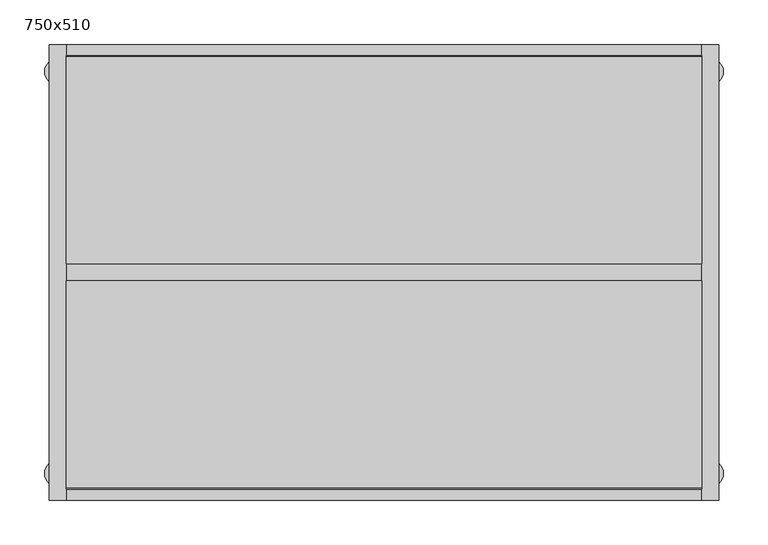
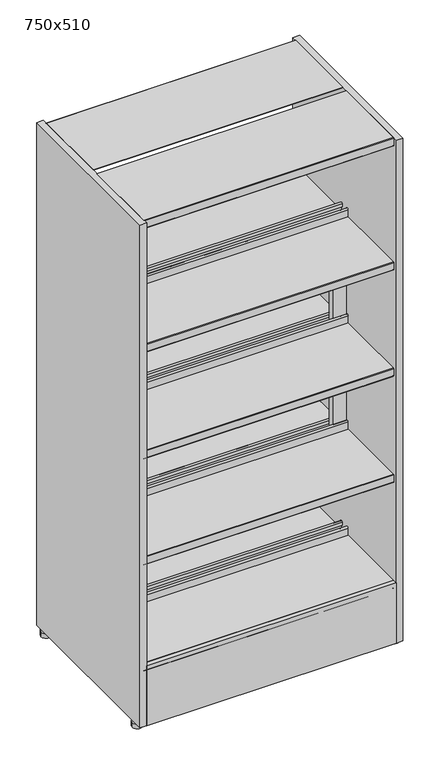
"""IFC4 building model written with IfcOpenShell, lengths in millimetres: furniture geometry, BK Library - Smaaland DS - 1530 : 750x510."""

from ifc_helpers import new_model, si_unit, point, frame, frame_2d, origin, origin_with_axes, place, context, project, spatial, polyline, circle_curve, trimmed, segment, composite_curve, outline, extrude, source, transform, mapped, element, save


def furniture_750x510_6453d18b(model_context):
    return source(origin(), model_context, "Body", "SweptSolid", [
        extrude(outline(polyline([(356.0, 255.0), (356.0, 242.7476624), (-356.0, 242.7476624), (-356.0, 255.0), (356.0, 255.0)])), frame((0.0, 0.0, 13.6999998), z_axis=(0.0, 0.0, 1.0), x_axis=(1.0, 0.0, 0.0)), (0.0, 0.0, 1.0), 181.4999514),
        extrude(outline(polyline([(356.0, -242.7476624), (356.0, -255.0), (-356.0, -255.0), (-356.0, -242.7476624), (356.0, -242.7476624)])), frame((0.0, 0.0, 13.6999998), z_axis=(0.0, 0.0, 1.0), x_axis=(1.0, 0.0, 0.0)), (0.0, 0.0, 1.0), 181.4999514),
        extrude(outline(polyline([(1106.1999512, -356.0), (391.1999512, -356.0), (391.1999512, 356.0), (1106.1999512, 356.0), (1106.1999512, -356.0)]), holes=[polyline([(1066.1999514, -317.5), (1066.1999514, 317.5), (431.1999514, 317.5), (431.1999514, -317.5), (1066.1999514, -317.5)])]), frame((0.0, -9.5, 0.0), z_axis=(0.0, 1.0, 0.0), x_axis=(0.0, 0.0, 1.0)), (0.0, 0.0, 1.0), 19.0),
        extrude(outline(composite_curve([segment(polyline([(9.5, 1530.0), (241.25, 1530.0)]), True, "CONTINUOUS"), segment(trimmed(circle_curve(frame_2d((241.25, 1528.5)), 1.5), [point((241.25, 1530.0))], [point((242.75, 1528.5))], False, "CARTESIAN"), True, "CONTINUOUS"), segment(polyline([(242.75, 1528.5), (242.75, 1506.5)]), True, "CONTINUOUS"), segment(trimmed(circle_curve(frame_2d((241.25, 1506.5)), 1.5), [point((242.75, 1506.5))], [point((241.25, 1505.0))], False, "CARTESIAN"), True, "CONTINUOUS"), segment(polyline([(241.25, 1505.0), (229.25, 1505.0), (229.25, 1506.5), (241.25, 1506.5), (241.25, 1528.0), (9.5, 1528.0), (9.5, 1530.0)]), True, "CONTINUOUS")], self_intersect=False)), frame((-356.0, 0.0, 0.0), z_axis=(1.0, 0.0, 0.0), x_axis=(0.0, 1.0, 0.0)), (0.0, 0.0, 1.0), 712.0),
        extrude(outline(composite_curve([segment(polyline([(17.75, 1155.1999512), (241.25, 1155.1999512)]), True, "CONTINUOUS"), segment(trimmed(circle_curve(frame_2d((241.25, 1153.6999512)), 1.5), [point((241.25, 1155.1999512))], [point((242.75, 1153.6999512))], False, "CARTESIAN"), True, "CONTINUOUS"), segment(polyline([(242.75, 1153.6999512), (242.75, 1132.1999512)]), True, "CONTINUOUS"), segment(trimmed(circle_curve(frame_2d((241.25, 1132.1999512)), 1.5), [point((242.75, 1132.1999512))], [point((241.25, 1130.6999512))], False, "CARTESIAN"), True, "CONTINUOUS"), segment(polyline([(241.25, 1130.6999512), (229.25, 1130.6999512), (229.25, 1132.1999512), (241.25, 1132.1999512), (241.25, 1153.6999512), (17.7048221, 1153.6999512)]), True, "CONTINUOUS"), segment(trimmed(circle_curve(frame_2d((17.7048221, 1155.1547733)), 1.4548221), [point((17.7048221, 1153.6999512))], [point((16.25, 1155.1547733))], False, "CARTESIAN"), True, "CONTINUOUS"), segment(polyline([(16.25, 1155.1547733), (16.25, 1176.7020126)]), True, "CONTINUOUS"), segment(trimmed(circle_curve(frame_2d((14.25, 1176.7020126)), 2.0), [point((16.25, 1176.7020126))], [point((12.25, 1176.7020126))], True, "CARTESIAN"), True, "CONTINUOUS"), segment(polyline([(12.25, 1176.7020126), (12.25, 1168.1999512), (10.75, 1168.1999512), (10.75, 1176.7196336)]), True, "CONTINUOUS"), segment(trimmed(circle_curve(frame_2d((14.25, 1176.7196336)), 3.5), [point((10.75, 1176.7196336))], [point((17.75, 1176.7196336))], False, "CARTESIAN"), True, "CONTINUOUS"), segment(polyline([(17.75, 1176.7196336), (17.75, 1155.1999512)]), True, "CONTINUOUS")], self_intersect=False)), frame((-356.0, 0.0, 0.0), z_axis=(1.0, 0.0, 0.0), x_axis=(0.0, 1.0, 0.0)), (0.0, 0.0, 1.0), 712.0),
        extrude(outline(composite_curve([segment(polyline([(17.75, 835.1999512), (241.25, 835.1999512)]), True, "CONTINUOUS"), segment(trimmed(circle_curve(frame_2d((241.25, 833.6999512)), 1.5), [point((241.25, 835.1999512))], [point((242.75, 833.6999512))], False, "CARTESIAN"), True, "CONTINUOUS"), segment(polyline([(242.75, 833.6999512), (242.75, 812.1999512)]), True, "CONTINUOUS"), segment(trimmed(circle_curve(frame_2d((241.25, 812.1999512)), 1.5), [point((242.75, 812.1999512))], [point((241.25, 810.6999512))], False, "CARTESIAN"), True, "CONTINUOUS"), segment(polyline([(241.25, 810.6999512), (229.25, 810.6999512), (229.25, 812.1999512), (241.25, 812.1999512), (241.25, 833.6999512), (17.7048221, 833.6999512)]), True, "CONTINUOUS"), segment(trimmed(circle_curve(frame_2d((17.7048221, 835.1547733)), 1.4548221), [point((17.7048221, 833.6999512))], [point((16.25, 835.1547733))], False, "CARTESIAN"), True, "CONTINUOUS"), segment(polyline([(16.25, 835.1547733), (16.25, 856.7020126)]), True, "CONTINUOUS"), segment(trimmed(circle_curve(frame_2d((14.25, 856.7020126)), 2.0), [point((16.25, 856.7020126))], [point((12.25, 856.7020126))], True, "CARTESIAN"), True, "CONTINUOUS"), segment(polyline([(12.25, 856.7020126), (12.25, 848.1999512), (10.75, 848.1999512), (10.75, 856.7196336)]), True, "CONTINUOUS"), segment(trimmed(circle_curve(frame_2d((14.25, 856.7196336)), 3.5), [point((10.75, 856.7196336))], [point((17.75, 856.7196336))], False, "CARTESIAN"), True, "CONTINUOUS"), segment(polyline([(17.75, 856.7196336), (17.75, 835.1999512)]), True, "CONTINUOUS")], self_intersect=False)), frame((-356.0, 0.0, 0.0), z_axis=(1.0, 0.0, 0.0), x_axis=(0.0, 1.0, 0.0)), (0.0, 0.0, 1.0), 712.0),
        extrude(outline(composite_curve([segment(polyline([(17.75, 515.1999512), (241.25, 515.1999512)]), True, "CONTINUOUS"), segment(trimmed(circle_curve(frame_2d((241.25, 513.6999512)), 1.5), [point((241.25, 515.1999512))], [point((242.75, 513.6999512))], False, "CARTESIAN"), True, "CONTINUOUS"), segment(polyline([(242.75, 513.6999512), (242.75, 492.1999512)]), True, "CONTINUOUS"), segment(trimmed(circle_curve(frame_2d((241.25, 492.1999512)), 1.5), [point((242.75, 492.1999512))], [point((241.25, 490.6999512))], False, "CARTESIAN"), True, "CONTINUOUS"), segment(polyline([(241.25, 490.6999512), (229.25, 490.6999512), (229.25, 492.1999512), (241.25, 492.1999512), (241.25, 513.6999512), (17.7048221, 513.6999512)]), True, "CONTINUOUS"), segment(trimmed(circle_curve(frame_2d((17.7048221, 515.1547733)), 1.4548221), [point((17.7048221, 513.6999512))], [point((16.25, 515.1547733))], False, "CARTESIAN"), True, "CONTINUOUS"), segment(polyline([(16.25, 515.1547733), (16.25, 536.7020126)]), True, "CONTINUOUS"), segment(trimmed(circle_curve(frame_2d((14.25, 536.7020126)), 2.0), [point((16.25, 536.7020126))], [point((12.25, 536.7020126))], True, "CARTESIAN"), True, "CONTINUOUS"), segment(polyline([(12.25, 536.7020126), (12.25, 528.1999512), (10.75, 528.1999512), (10.75, 536.7196336)]), True, "CONTINUOUS"), segment(trimmed(circle_curve(frame_2d((14.25, 536.7196336)), 3.5), [point((10.75, 536.7196336))], [point((17.75, 536.7196336))], False, "CARTESIAN"), True, "CONTINUOUS"), segment(polyline([(17.75, 536.7196336), (17.75, 515.1999512)]), True, "CONTINUOUS")], self_intersect=False)), frame((-356.0, 0.0, 0.0), z_axis=(1.0, 0.0, 0.0), x_axis=(0.0, 1.0, 0.0)), (0.0, 0.0, 1.0), 712.0),
        extrude(outline(composite_curve([segment(polyline([(17.75, 195.1999512), (241.25, 195.1999512)]), True, "CONTINUOUS"), segment(trimmed(circle_curve(frame_2d((241.25, 193.6999512)), 1.5), [point((241.25, 195.1999512))], [point((242.75, 193.6999512))], False, "CARTESIAN"), True, "CONTINUOUS"), segment(polyline([(242.75, 193.6999512), (242.75, 172.1999512)]), True, "CONTINUOUS"), segment(trimmed(circle_curve(frame_2d((241.25, 172.1999512)), 1.5), [point((242.75, 172.1999512))], [point((241.25, 170.6999512))], False, "CARTESIAN"), True, "CONTINUOUS"), segment(polyline([(241.25, 170.6999512), (229.25, 170.6999512), (229.25, 172.1999512), (241.25, 172.1999512), (241.25, 193.6999512), (17.7048221, 193.6999512)]), True, "CONTINUOUS"), segment(trimmed(circle_curve(frame_2d((17.7048221, 195.1547733)), 1.4548221), [point((17.7048221, 193.6999512))], [point((16.25, 195.1547733))], False, "CARTESIAN"), True, "CONTINUOUS"), segment(polyline([(16.25, 195.1547733), (16.25, 216.7020126)]), True, "CONTINUOUS"), segment(trimmed(circle_curve(frame_2d((14.25, 216.7020126)), 2.0), [point((16.25, 216.7020126))], [point((12.25, 216.7020126))], True, "CARTESIAN"), True, "CONTINUOUS"), segment(polyline([(12.25, 216.7020126), (12.25, 208.1999512), (10.75, 208.1999512), (10.75, 216.7196336)]), True, "CONTINUOUS"), segment(trimmed(circle_curve(frame_2d((14.25, 216.7196336)), 3.5), [point((10.75, 216.7196336))], [point((17.75, 216.7196336))], False, "CARTESIAN"), True, "CONTINUOUS"), segment(polyline([(17.75, 216.7196336), (17.75, 195.1999512)]), True, "CONTINUOUS")], self_intersect=False)), frame((-356.0, 0.0, 0.0), z_axis=(1.0, 0.0, 0.0), x_axis=(0.0, 1.0, 0.0)), (0.0, 0.0, 1.0), 712.0),
        extrude(outline(composite_curve([segment(polyline([(-9.5, 1530.0), (-9.5, 1528.0), (-241.25, 1528.0), (-241.25, 1506.5), (-229.25, 1506.5), (-229.25, 1505.0), (-241.25, 1505.0)]), True, "CONTINUOUS"), segment(trimmed(circle_curve(frame_2d((-241.25, 1506.5)), 1.5), [point((-241.25, 1505.0))], [point((-242.75, 1506.5))], False, "CARTESIAN"), True, "CONTINUOUS"), segment(polyline([(-242.75, 1506.5), (-242.75, 1528.5)]), True, "CONTINUOUS"), segment(trimmed(circle_curve(frame_2d((-241.25, 1528.5)), 1.5), [point((-242.75, 1528.5))], [point((-241.25, 1530.0))], False, "CARTESIAN"), True, "CONTINUOUS"), segment(polyline([(-241.25, 1530.0), (-9.5, 1530.0)]), True, "CONTINUOUS")], self_intersect=False)), frame((-356.0, 0.0, 0.0), z_axis=(1.0, 0.0, 0.0), x_axis=(0.0, 1.0, 0.0)), (0.0, 0.0, 1.0), 712.0),
        extrude(outline(composite_curve([segment(polyline([(-17.75, 1155.1999512), (-17.75, 1176.7196336)]), True, "CONTINUOUS"), segment(trimmed(circle_curve(frame_2d((-14.25, 1176.7196336)), 3.5), [point((-17.75, 1176.7196336))], [point((-10.75, 1176.7196336))], False, "CARTESIAN"), True, "CONTINUOUS"), segment(polyline([(-10.75, 1176.7196336), (-10.75, 1168.1999512), (-12.25, 1168.1999512), (-12.25, 1176.7020126)]), True, "CONTINUOUS"), segment(trimmed(circle_curve(frame_2d((-14.25, 1176.7020126)), 2.0), [point((-12.25, 1176.7020126))], [point((-16.25, 1176.7020126))], True, "CARTESIAN"), True, "CONTINUOUS"), segment(polyline([(-16.25, 1176.7020126), (-16.25, 1155.1547733)]), True, "CONTINUOUS"), segment(trimmed(circle_curve(frame_2d((-17.7048221, 1155.1547733)), 1.4548221), [point((-16.25, 1155.1547733))], [point((-17.7048221, 1153.6999512))], False, "CARTESIAN"), True, "CONTINUOUS"), segment(polyline([(-17.7048221, 1153.6999512), (-241.25, 1153.6999512), (-241.25, 1132.1999512), (-229.25, 1132.1999512), (-229.25, 1130.6999512), (-241.25, 1130.6999512)]), True, "CONTINUOUS"), segment(trimmed(circle_curve(frame_2d((-241.25, 1132.1999512)), 1.5), [point((-241.25, 1130.6999512))], [point((-242.75, 1132.1999512))], False, "CARTESIAN"), True, "CONTINUOUS"), segment(polyline([(-242.75, 1132.1999512), (-242.75, 1153.6999512)]), True, "CONTINUOUS"), segment(trimmed(circle_curve(frame_2d((-241.25, 1153.6999512)), 1.5), [point((-242.75, 1153.6999512))], [point((-241.25, 1155.1999512))], False, "CARTESIAN"), True, "CONTINUOUS"), segment(polyline([(-241.25, 1155.1999512), (-17.75, 1155.1999512)]), True, "CONTINUOUS")], self_intersect=False)), frame((-356.0, 0.0, 0.0), z_axis=(1.0, 0.0, 0.0), x_axis=(0.0, 1.0, 0.0)), (0.0, 0.0, 1.0), 712.0),
        extrude(outline(composite_curve([segment(polyline([(-17.75, 835.1999512), (-17.75, 856.7196336)]), True, "CONTINUOUS"), segment(trimmed(circle_curve(frame_2d((-14.25, 856.7196336)), 3.5), [point((-17.75, 856.7196336))], [point((-10.75, 856.7196336))], False, "CARTESIAN"), True, "CONTINUOUS"), segment(polyline([(-10.75, 856.7196336), (-10.75, 848.1999512), (-12.25, 848.1999512), (-12.25, 856.7020126)]), True, "CONTINUOUS"), segment(trimmed(circle_curve(frame_2d((-14.25, 856.7020126)), 2.0), [point((-12.25, 856.7020126))], [point((-16.25, 856.7020126))], True, "CARTESIAN"), True, "CONTINUOUS"), segment(polyline([(-16.25, 856.7020126), (-16.25, 835.1547733)]), True, "CONTINUOUS"), segment(trimmed(circle_curve(frame_2d((-17.7048221, 835.1547733)), 1.4548221), [point((-16.25, 835.1547733))], [point((-17.7048221, 833.6999512))], False, "CARTESIAN"), True, "CONTINUOUS"), segment(polyline([(-17.7048221, 833.6999512), (-241.25, 833.6999512), (-241.25, 812.1999512), (-229.25, 812.1999512), (-229.25, 810.6999512), (-241.25, 810.6999512)]), True, "CONTINUOUS"), segment(trimmed(circle_curve(frame_2d((-241.25, 812.1999512)), 1.5), [point((-241.25, 810.6999512))], [point((-242.75, 812.1999512))], False, "CARTESIAN"), True, "CONTINUOUS"), segment(polyline([(-242.75, 812.1999512), (-242.75, 833.6999512)]), True, "CONTINUOUS"), segment(trimmed(circle_curve(frame_2d((-241.25, 833.6999512)), 1.5), [point((-242.75, 833.6999512))], [point((-241.25, 835.1999512))], False, "CARTESIAN"), True, "CONTINUOUS"), segment(polyline([(-241.25, 835.1999512), (-17.75, 835.1999512)]), True, "CONTINUOUS")], self_intersect=False)), frame((-356.0, 0.0, 0.0), z_axis=(1.0, 0.0, 0.0), x_axis=(0.0, 1.0, 0.0)), (0.0, 0.0, 1.0), 712.0),
        extrude(outline(composite_curve([segment(polyline([(-17.75, 515.1999512), (-17.75, 536.7196336)]), True, "CONTINUOUS"), segment(trimmed(circle_curve(frame_2d((-14.25, 536.7196336)), 3.5), [point((-17.75, 536.7196336))], [point((-10.75, 536.7196336))], False, "CARTESIAN"), True, "CONTINUOUS"), segment(polyline([(-10.75, 536.7196336), (-10.75, 528.1999512), (-12.25, 528.1999512), (-12.25, 536.7020126)]), True, "CONTINUOUS"), segment(trimmed(circle_curve(frame_2d((-14.25, 536.7020126)), 2.0), [point((-12.25, 536.7020126))], [point((-16.25, 536.7020126))], True, "CARTESIAN"), True, "CONTINUOUS"), segment(polyline([(-16.25, 536.7020126), (-16.25, 515.1547733)]), True, "CONTINUOUS"), segment(trimmed(circle_curve(frame_2d((-17.7048221, 515.1547733)), 1.4548221), [point((-16.25, 515.1547733))], [point((-17.7048221, 513.6999512))], False, "CARTESIAN"), True, "CONTINUOUS"), segment(polyline([(-17.7048221, 513.6999512), (-241.25, 513.6999512), (-241.25, 492.1999512), (-229.25, 492.1999512), (-229.25, 490.6999512), (-241.25, 490.6999512)]), True, "CONTINUOUS"), segment(trimmed(circle_curve(frame_2d((-241.25, 492.1999512)), 1.5), [point((-241.25, 490.6999512))], [point((-242.75, 492.1999512))], False, "CARTESIAN"), True, "CONTINUOUS"), segment(polyline([(-242.75, 492.1999512), (-242.75, 513.6999512)]), True, "CONTINUOUS"), segment(trimmed(circle_curve(frame_2d((-241.25, 513.6999512)), 1.5), [point((-242.75, 513.6999512))], [point((-241.25, 515.1999512))], False, "CARTESIAN"), True, "CONTINUOUS"), segment(polyline([(-241.25, 515.1999512), (-17.75, 515.1999512)]), True, "CONTINUOUS")], self_intersect=False)), frame((-356.0, 0.0, 0.0), z_axis=(1.0, 0.0, 0.0), x_axis=(0.0, 1.0, 0.0)), (0.0, 0.0, 1.0), 712.0),
        extrude(outline(composite_curve([segment(polyline([(-17.75, 195.1999512), (-17.75, 216.7196336)]), True, "CONTINUOUS"), segment(trimmed(circle_curve(frame_2d((-14.25, 216.7196336)), 3.5), [point((-17.75, 216.7196336))], [point((-10.75, 216.7196336))], False, "CARTESIAN"), True, "CONTINUOUS"), segment(polyline([(-10.75, 216.7196336), (-10.75, 208.1999512), (-12.25, 208.1999512), (-12.25, 216.7020126)]), True, "CONTINUOUS"), segment(trimmed(circle_curve(frame_2d((-14.25, 216.7020126)), 2.0), [point((-12.25, 216.7020126))], [point((-16.25, 216.7020126))], True, "CARTESIAN"), True, "CONTINUOUS"), segment(polyline([(-16.25, 216.7020126), (-16.25, 195.1547733)]), True, "CONTINUOUS"), segment(trimmed(circle_curve(frame_2d((-17.7048221, 195.1547733)), 1.4548221), [point((-16.25, 195.1547733))], [point((-17.7048221, 193.6999512))], False, "CARTESIAN"), True, "CONTINUOUS"), segment(polyline([(-17.7048221, 193.6999512), (-241.25, 193.6999512), (-241.25, 172.1999512), (-229.25, 172.1999512), (-229.25, 170.6999512), (-241.25, 170.6999512)]), True, "CONTINUOUS"), segment(trimmed(circle_curve(frame_2d((-241.25, 172.1999512)), 1.5), [point((-241.25, 170.6999512))], [point((-242.75, 172.1999512))], False, "CARTESIAN"), True, "CONTINUOUS"), segment(polyline([(-242.75, 172.1999512), (-242.75, 193.6999512)]), True, "CONTINUOUS"), segment(trimmed(circle_curve(frame_2d((-241.25, 193.6999512)), 1.5), [point((-242.75, 193.6999512))], [point((-241.25, 195.1999512))], False, "CARTESIAN"), True, "CONTINUOUS"), segment(polyline([(-241.25, 195.1999512), (-17.75, 195.1999512)]), True, "CONTINUOUS")], self_intersect=False)), frame((-356.0, 0.0, 0.0), z_axis=(1.0, 0.0, 0.0), x_axis=(0.0, 1.0, 0.0)), (0.0, 0.0, 1.0), 712.0),
        extrude(outline(polyline([(356.0, 255.0), (375.0, 255.0), (375.0, -255.0), (356.0, -255.0), (356.0, 255.0)])), frame((0.0, 0.0, 13.6999998), z_axis=(0.0, 0.0, 1.0), x_axis=(1.0, 0.0, 0.0)), (0.0, 0.0, 1.0), 1516.3000002),
        extrude(outline(polyline([(-356.0, 255.0), (-356.0, -255.0), (-375.0, -255.0), (-375.0, 255.0), (-356.0, 255.0)])), frame((0.0, 0.0, 13.6999998), z_axis=(0.0, 0.0, 1.0), x_axis=(1.0, 0.0, 0.0)), (0.0, 0.0, 1.0), 1516.3000002),
        extrude(outline(composite_curve([segment(trimmed(circle_curve(frame_2d((365.5005427, 224.9952633)), 14.4994573), [point((380.0, 224.9952633))], [point((351.0010853, 224.9952633))], False, "CARTESIAN"), True, "CONTINUOUS"), segment(trimmed(circle_curve(frame_2d((365.5005427, 224.9952633)), 14.4994573), [point((351.0010853, 224.9952633))], [point((380.0, 224.9952633))], False, "CARTESIAN"), True, "CONTINUOUS")], self_intersect=False)), origin_with_axes(), (0.0, 0.0, 1.0), 13.6999998),
        extrude(outline(composite_curve([segment(trimmed(circle_curve(frame_2d((-365.5005427, 224.9952633)), 14.4994573), [point((-380.0, 224.9952633))], [point((-351.0010853, 224.9952633))], False, "CARTESIAN"), True, "CONTINUOUS"), segment(trimmed(circle_curve(frame_2d((-365.5005427, 224.9952633)), 14.4994573), [point((-351.0010853, 224.9952633))], [point((-380.0, 224.9952633))], False, "CARTESIAN"), True, "CONTINUOUS")], self_intersect=False)), origin_with_axes(), (0.0, 0.0, 1.0), 13.6999998),
        extrude(outline(composite_curve([segment(trimmed(circle_curve(frame_2d((365.5005427, -224.9952633)), 14.4994573), [point((380.0, -224.9952633))], [point((351.0010853, -224.9952633))], False, "CARTESIAN"), True, "CONTINUOUS"), segment(trimmed(circle_curve(frame_2d((365.5005427, -224.9952633)), 14.4994573), [point((351.0010853, -224.9952633))], [point((380.0, -224.9952633))], False, "CARTESIAN"), True, "CONTINUOUS")], self_intersect=False)), origin_with_axes(), (0.0, 0.0, 1.0), 13.6999998),
        extrude(outline(composite_curve([segment(trimmed(circle_curve(frame_2d((-365.5005427, -224.9952633)), 14.4994573), [point((-380.0, -224.9952633))], [point((-351.0010853, -224.9952633))], False, "CARTESIAN"), True, "CONTINUOUS"), segment(trimmed(circle_curve(frame_2d((-365.5005427, -224.9952633)), 14.4994573), [point((-351.0010853, -224.9952633))], [point((-380.0, -224.9952633))], False, "CARTESIAN"), True, "CONTINUOUS")], self_intersect=False)), origin_with_axes(), (0.0, 0.0, 1.0), 13.6999998),
    ])


if __name__ == "__main__":
    model = new_model("IFC4")
    model_context = context("Model", 3, world=origin())
    ifc_project = project(units=[si_unit("LENGTHUNIT", "METRE", prefix="MILLI")], contexts=[model_context])
    site = spatial("IfcSite", under=ifc_project)
    building = spatial("IfcBuilding", under=site)
    placement = place(None, origin())
    furniture_750x510_shape = furniture_750x510_6453d18b(model_context)
    element("IfcFurniture", 1, ObjectType="BK Library - Smaaland DS - 1530 : 750x510", at=placement, inside=building, context=model_context, shape_type="MappedRepresentation", body=[
        mapped(furniture_750x510_shape, transform((0.0, 0.0, 0.0), x_axis=(1.0, 0.0, 0.0), y_axis=(0.0, 1.0, 0.0), z_axis=(0.0, 0.0, 1.0))),
    ])
    save(model, "model.ifc")
